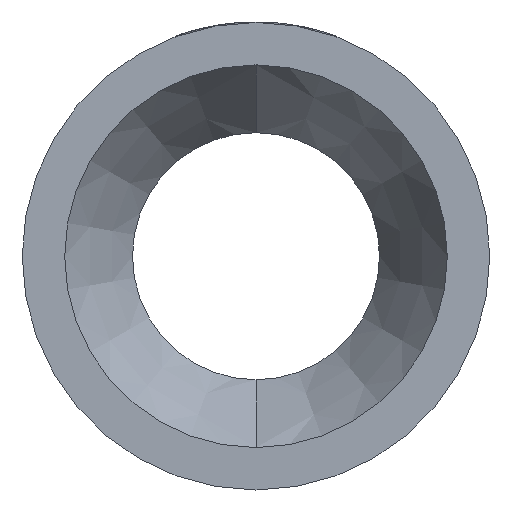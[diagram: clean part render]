
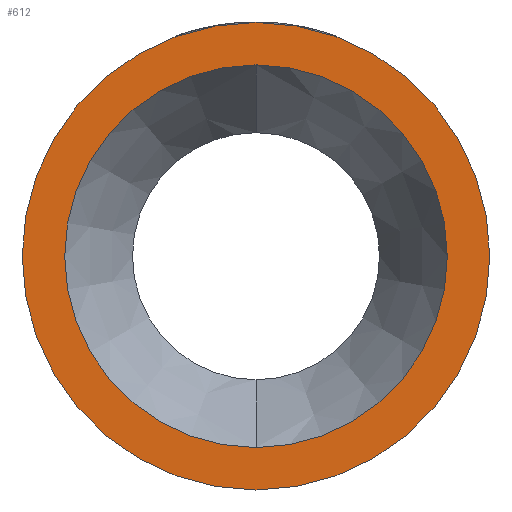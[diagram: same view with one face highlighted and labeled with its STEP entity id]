
A CAD part, left-side view. The second image highlights one B-rep face of the part: STEP entity #612.
In plain terms, the highlighted planar face has unit normal (-1, 0, 0).
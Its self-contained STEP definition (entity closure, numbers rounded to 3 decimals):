
#46 = CARTESIAN_POINT ( 'NONE',  ( 0., 0., -250. ) ) ;
#57 = CARTESIAN_POINT ( 'NONE',  ( 0., 0., -204.6 ) ) ;
#267 = DIRECTION ( 'NONE',  ( 0., 0., 1. ) ) ;
#270 = DIRECTION ( 'NONE',  ( -1., 0., 0. ) ) ;
#272 = CARTESIAN_POINT ( 'NONE',  ( 0., 0., 0. ) ) ;
#452 = EDGE_CURVE ( 'NONE', #1342, #3053, #3154, .T. ) ;
#483 = EDGE_CURVE ( 'NONE', #814, #3068, #666, .T. ) ;
#484 = CARTESIAN_POINT ( 'NONE',  ( 0., 0., 250. ) ) ;
#508 = EDGE_CURVE ( 'NONE', #3053, #1342, #2263, .T. ) ;
#612 = ADVANCED_FACE ( 'NONE', ( #3066, #3063 ), #2744, .F. ) ;
#617 = ORIENTED_EDGE ( 'NONE', *, *, #452, .T. ) ;
#666 = CIRCLE ( 'NONE', #3724, 204.6 ) ;
#726 = CIRCLE ( 'NONE', #1197, 204.6 ) ;
#814 = VERTEX_POINT ( 'NONE', #1690 ) ;
#948 = DIRECTION ( 'NONE',  ( -1., 0., 0. ) ) ;
#1069 = CARTESIAN_POINT ( 'NONE',  ( 0., 0., 0. ) ) ;
#1134 = DIRECTION ( 'NONE',  ( 0., 0., 1. ) ) ;
#1197 = AXIS2_PLACEMENT_3D ( 'NONE', #1069, #948, #1134 ) ;
#1342 = VERTEX_POINT ( 'NONE', #484 ) ;
#1523 = ORIENTED_EDGE ( 'NONE', *, *, #483, .F. ) ;
#1647 = DIRECTION ( 'NONE',  ( 0., 0., 1. ) ) ;
#1690 = CARTESIAN_POINT ( 'NONE',  ( 0., 0., 204.6 ) ) ;
#1702 = ORIENTED_EDGE ( 'NONE', *, *, #3589, .F. ) ;
#1743 = ORIENTED_EDGE ( 'NONE', *, *, #508, .T. ) ;
#1777 = DIRECTION ( 'NONE',  ( -1., 0., 0. ) ) ;
#1797 = CARTESIAN_POINT ( 'NONE',  ( 0., 0., 0. ) ) ;
#2086 = EDGE_LOOP ( 'NONE', ( #617, #1743 ) ) ;
#2263 = CIRCLE ( 'NONE', #3545, 250. ) ;
#2612 = AXIS2_PLACEMENT_3D ( 'NONE', #2637, #2632, #2629 ) ;
#2629 = DIRECTION ( 'NONE',  ( 0., 0., -1. ) ) ;
#2632 = DIRECTION ( 'NONE',  ( 1., 0., 0. ) ) ;
#2637 = CARTESIAN_POINT ( 'NONE',  ( 0., 204.6, 0. ) ) ;
#2744 = PLANE ( 'NONE',  #2612 ) ;
#2802 = EDGE_LOOP ( 'NONE', ( #1523, #1702 ) ) ;
#3053 = VERTEX_POINT ( 'NONE', #46 ) ;
#3063 = FACE_OUTER_BOUND ( 'NONE', #2086, .T. ) ;
#3066 = FACE_BOUND ( 'NONE', #2802, .T. ) ;
#3068 = VERTEX_POINT ( 'NONE', #57 ) ;
#3154 = CIRCLE ( 'NONE', #3485, 250. ) ;
#3485 = AXIS2_PLACEMENT_3D ( 'NONE', #272, #270, #267 ) ;
#3545 = AXIS2_PLACEMENT_3D ( 'NONE', #3765, #3758, #3752 ) ;
#3589 = EDGE_CURVE ( 'NONE', #3068, #814, #726, .T. ) ;
#3724 = AXIS2_PLACEMENT_3D ( 'NONE', #1797, #1777, #1647 ) ;
#3752 = DIRECTION ( 'NONE',  ( 0., 0., 1. ) ) ;
#3758 = DIRECTION ( 'NONE',  ( -1., 0., 0. ) ) ;
#3765 = CARTESIAN_POINT ( 'NONE',  ( 0., 0., 0. ) ) ;
